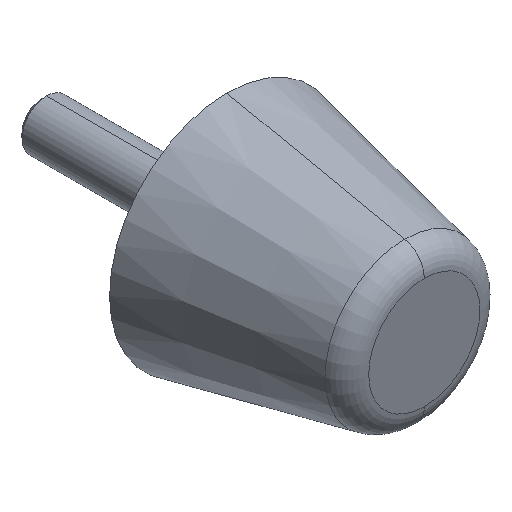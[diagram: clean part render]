
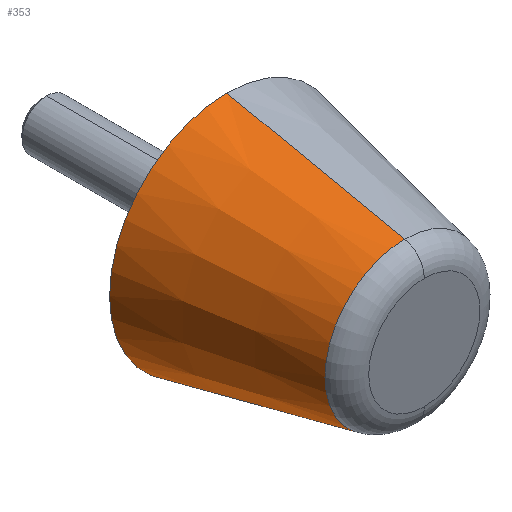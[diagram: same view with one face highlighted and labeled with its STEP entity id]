
A CAD part, isometric view. The second image highlights one B-rep face of the part: STEP entity #353.
In plain terms, the highlighted conical face has half-angle 11.911 degrees and reference radius 12.25 mm.
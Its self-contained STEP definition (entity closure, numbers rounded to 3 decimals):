
#19 = DIRECTION ( 'NONE',  ( 0., 1., 0. ) ) ;
#29 = AXIS2_PLACEMENT_3D ( 'NONE', #56, #19, #350 ) ;
#37 = AXIS2_PLACEMENT_3D ( 'NONE', #301, #90, #215 ) ;
#40 = VERTEX_POINT ( 'NONE', #204 ) ;
#44 = FACE_OUTER_BOUND ( 'NONE', #327, .T. ) ;
#54 = CARTESIAN_POINT ( 'NONE',  ( 0., 3.174, -12.92 ) ) ;
#56 = CARTESIAN_POINT ( 'NONE',  ( 0., 3.174, 0. ) ) ;
#60 = VECTOR ( 'NONE', #142, 1000. ) ;
#90 = DIRECTION ( 'NONE',  ( 0., -1., 0. ) ) ;
#118 = CARTESIAN_POINT ( 'NONE',  ( 0., 0., 0. ) ) ;
#142 = DIRECTION ( 'NONE',  ( 0., 0.978, -0.206 ) ) ;
#143 = ORIENTED_EDGE ( 'NONE', *, *, #265, .F. ) ;
#153 = CIRCLE ( 'NONE', #37, 19. ) ;
#173 = EDGE_CURVE ( 'NONE', #413, #515, #338, .T. ) ;
#204 = CARTESIAN_POINT ( 'NONE',  ( 0., 32., 19. ) ) ;
#207 = CARTESIAN_POINT ( 'NONE',  ( 0., 0., 12.25 ) ) ;
#211 = DIRECTION ( 'NONE',  ( 0., 0., 1. ) ) ;
#215 = DIRECTION ( 'NONE',  ( 0., 0., -1. ) ) ;
#224 = ORIENTED_EDGE ( 'NONE', *, *, #173, .T. ) ;
#235 = DIRECTION ( 'NONE',  ( 0., 0.978, 0.206 ) ) ;
#249 = CARTESIAN_POINT ( 'NONE',  ( 0., 32., -19. ) ) ;
#265 = EDGE_CURVE ( 'NONE', #413, #418, #352, .T. ) ;
#289 = AXIS2_PLACEMENT_3D ( 'NONE', #118, #290, #211 ) ;
#290 = DIRECTION ( 'NONE',  ( 0., 1., 0. ) ) ;
#293 = EDGE_CURVE ( 'NONE', #515, #40, #417, .T. ) ;
#301 = CARTESIAN_POINT ( 'NONE',  ( 0., 32., 0. ) ) ;
#309 = CARTESIAN_POINT ( 'NONE',  ( 0., 3.174, 12.92 ) ) ;
#316 = ORIENTED_EDGE ( 'NONE', *, *, #293, .T. ) ;
#327 = EDGE_LOOP ( 'NONE', ( #143, #224, #316, #377 ) ) ;
#338 = CIRCLE ( 'NONE', #29, 12.92 ) ;
#350 = DIRECTION ( 'NONE',  ( 0., 0., -1. ) ) ;
#352 = LINE ( 'NONE', #526, #60 ) ;
#353 = ADVANCED_FACE ( 'NONE', ( #44 ), #420, .T. ) ;
#377 = ORIENTED_EDGE ( 'NONE', *, *, #415, .T. ) ;
#413 = VERTEX_POINT ( 'NONE', #54 ) ;
#415 = EDGE_CURVE ( 'NONE', #40, #418, #153, .T. ) ;
#417 = LINE ( 'NONE', #207, #548 ) ;
#418 = VERTEX_POINT ( 'NONE', #249 ) ;
#420 = CONICAL_SURFACE ( 'NONE', #289, 12.25, 0.208 ) ;
#515 = VERTEX_POINT ( 'NONE', #309 ) ;
#526 = CARTESIAN_POINT ( 'NONE',  ( 0., 0., -12.25 ) ) ;
#548 = VECTOR ( 'NONE', #235, 1000. ) ;
